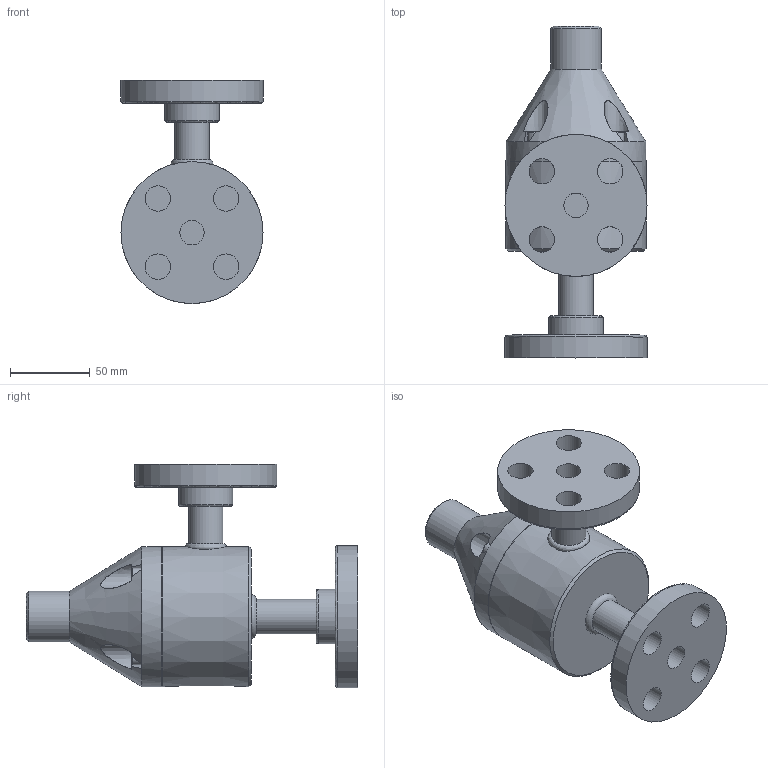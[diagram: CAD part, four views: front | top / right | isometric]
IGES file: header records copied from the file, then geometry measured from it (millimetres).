
Start section: SolidWorks IGES file using analytic representation for surfaces
Global section: file name: F:\Griffco-Valve\Griffco_current-projects\GV_web-files_2015\G Series Flanged\GBP0500_90-FLNG.IGS; native system: SolidWorks 2014; preprocessor: SolidWorks 2014; author: Dan; date: 160212.042807; units: inch
Bounding box: 88.9 x 207.65 x 139.7 mm (x, y, z)
Surface area: 91086.9 mm2 (no closed solid volume)
Topology: 0 solids, 0 shells, 126 faces, 530 edges, 488 vertices
Faces by surface type: bspline 79, revolution 47
